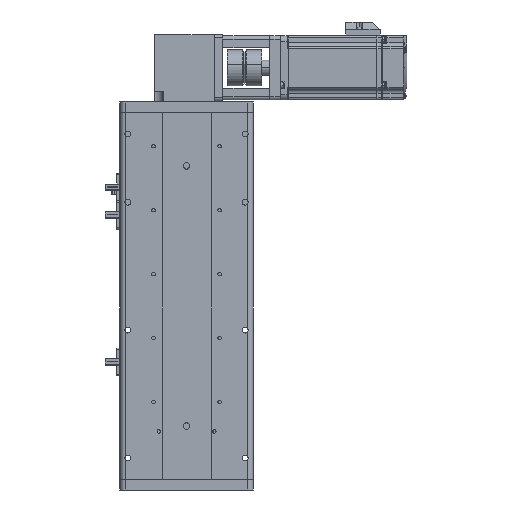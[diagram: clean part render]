
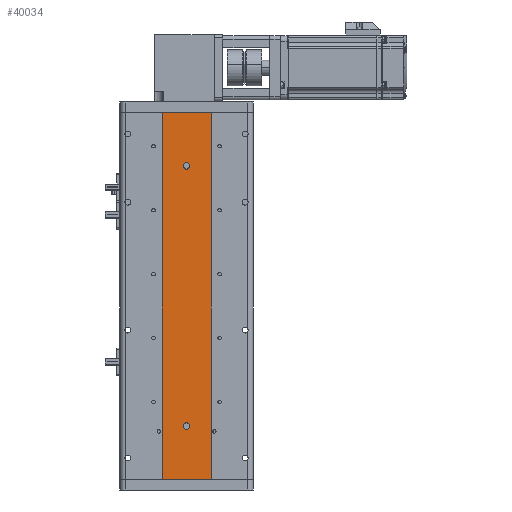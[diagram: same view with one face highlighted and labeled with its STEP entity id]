
A CAD part, front view. The second image highlights one B-rep face of the part: STEP entity #40034.
In plain terms, the highlighted planar face has unit normal (0, -1, 0).
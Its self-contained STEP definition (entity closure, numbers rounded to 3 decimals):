
#705 = DIRECTION ( 'NONE',  ( 0., 0., 1. ) ) ;
#916 = DIRECTION ( 'NONE',  ( 1., 0., 0. ) ) ;
#2080 = DIRECTION ( 'NONE',  ( 1., 0., 0. ) ) ;
#2386 = AXIS2_PLACEMENT_3D ( 'NONE', #44419, #17637, #48931 ) ;
#2484 = VERTEX_POINT ( 'NONE', #52739 ) ;
#4044 = DIRECTION ( 'NONE',  ( 0., 1., 0. ) ) ;
#4589 = ORIENTED_EDGE ( 'NONE', *, *, #50188, .F. ) ;
#5511 = AXIS2_PLACEMENT_3D ( 'NONE', #32325, #5598, #36836 ) ;
#5598 = DIRECTION ( 'NONE',  ( 0., -1., 0. ) ) ;
#6103 = CARTESIAN_POINT ( 'NONE',  ( 0., 1., -125. ) ) ;
#7174 = CARTESIAN_POINT ( 'NONE',  ( 23., 1., 172.001 ) ) ;
#8014 = EDGE_CURVE ( 'NONE', #13140, #49374, #9955, .T. ) ;
#8070 = ORIENTED_EDGE ( 'NONE', *, *, #54855, .F. ) ;
#8545 = VERTEX_POINT ( 'NONE', #43619 ) ;
#9912 = CARTESIAN_POINT ( 'NONE',  ( 23., 1., -172. ) ) ;
#9955 = LINE ( 'NONE', #44210, #56025 ) ;
#10568 = VERTEX_POINT ( 'NONE', #6103 ) ;
#12844 = CARTESIAN_POINT ( 'NONE',  ( 0., 1., 122. ) ) ;
#13140 = VERTEX_POINT ( 'NONE', #17910 ) ;
#13797 = EDGE_LOOP ( 'NONE', ( #4589, #8070 ) ) ;
#14484 = VERTEX_POINT ( 'NONE', #45221 ) ;
#15544 = DIRECTION ( 'NONE',  ( 0., 0., -1. ) ) ;
#16064 = LINE ( 'NONE', #55566, #38423 ) ;
#16149 = FACE_OUTER_BOUND ( 'NONE', #49809, .T. ) ;
#16894 = ORIENTED_EDGE ( 'NONE', *, *, #31182, .F. ) ;
#17292 = DIRECTION ( 'NONE',  ( 0., 0., -1. ) ) ;
#17447 = DIRECTION ( 'NONE',  ( 0., 0., -1. ) ) ;
#17637 = DIRECTION ( 'NONE',  ( 0., -1., 0. ) ) ;
#17910 = CARTESIAN_POINT ( 'NONE',  ( -23., 1., 172. ) ) ;
#18072 = VECTOR ( 'NONE', #15544, 1000. ) ;
#18390 = LINE ( 'NONE', #9912, #52671 ) ;
#22171 = CARTESIAN_POINT ( 'NONE',  ( 23., 1., 172.001 ) ) ;
#23677 = DIRECTION ( 'NONE',  ( 0., -1., 0. ) ) ;
#24296 = ORIENTED_EDGE ( 'NONE', *, *, #40373, .F. ) ;
#24493 = EDGE_CURVE ( 'NONE', #55715, #52614, #52355, .T. ) ;
#27426 = PLANE ( 'NONE',  #48333 ) ;
#27885 = CIRCLE ( 'NONE', #51618, 3. ) ;
#27973 = FACE_BOUND ( 'NONE', #49133, .T. ) ;
#28389 = AXIS2_PLACEMENT_3D ( 'NONE', #50463, #23677, #54923 ) ;
#31182 = EDGE_CURVE ( 'NONE', #2484, #8545, #27885, .T. ) ;
#31310 = ORIENTED_EDGE ( 'NONE', *, *, #51504, .F. ) ;
#32325 = CARTESIAN_POINT ( 'NONE',  ( 0., 1., -122. ) ) ;
#34532 = ORIENTED_EDGE ( 'NONE', *, *, #24493, .F. ) ;
#36836 = DIRECTION ( 'NONE',  ( 0., 0., -1. ) ) ;
#38423 = VECTOR ( 'NONE', #2080, 1000. ) ;
#38513 = FACE_BOUND ( 'NONE', #13797, .T. ) ;
#40034 = ADVANCED_FACE ( 'NONE', ( #27973, #38513, #16149 ), #27426, .F. ) ;
#40063 = CIRCLE ( 'NONE', #28389, 3. ) ;
#40225 = CARTESIAN_POINT ( 'NONE',  ( -23., 1., -172. ) ) ;
#40373 = EDGE_CURVE ( 'NONE', #8545, #2484, #53761, .T. ) ;
#41489 = ORIENTED_EDGE ( 'NONE', *, *, #49496, .T. ) ;
#42191 = CIRCLE ( 'NONE', #5511, 3. ) ;
#43619 = CARTESIAN_POINT ( 'NONE',  ( 0., 1., 119. ) ) ;
#44068 = DIRECTION ( 'NONE',  ( 0., -1., 0. ) ) ;
#44210 = CARTESIAN_POINT ( 'NONE',  ( -23., 1., 172.001 ) ) ;
#44419 = CARTESIAN_POINT ( 'NONE',  ( 0., 1., 122. ) ) ;
#45221 = CARTESIAN_POINT ( 'NONE',  ( 0., 1., -119. ) ) ;
#48333 = AXIS2_PLACEMENT_3D ( 'NONE', #22171, #4044, #705 ) ;
#48931 = DIRECTION ( 'NONE',  ( 0., 0., -1. ) ) ;
#49133 = EDGE_LOOP ( 'NONE', ( #24296, #16894 ) ) ;
#49374 = VERTEX_POINT ( 'NONE', #40225 ) ;
#49496 = EDGE_CURVE ( 'NONE', #49374, #52614, #18390, .T. ) ;
#49809 = EDGE_LOOP ( 'NONE', ( #56380, #41489, #34532, #31310 ) ) ;
#50188 = EDGE_CURVE ( 'NONE', #10568, #14484, #40063, .T. ) ;
#50463 = CARTESIAN_POINT ( 'NONE',  ( 0., 1., -122. ) ) ;
#51504 = EDGE_CURVE ( 'NONE', #13140, #55715, #16064, .T. ) ;
#51618 = AXIS2_PLACEMENT_3D ( 'NONE', #12844, #44068, #17292 ) ;
#51795 = CARTESIAN_POINT ( 'NONE',  ( 23., 1., -172. ) ) ;
#51987 = CARTESIAN_POINT ( 'NONE',  ( 23., 1., 172. ) ) ;
#52355 = LINE ( 'NONE', #7174, #18072 ) ;
#52614 = VERTEX_POINT ( 'NONE', #51795 ) ;
#52671 = VECTOR ( 'NONE', #916, 1000. ) ;
#52739 = CARTESIAN_POINT ( 'NONE',  ( 0., 1., 125. ) ) ;
#53761 = CIRCLE ( 'NONE', #2386, 3. ) ;
#54855 = EDGE_CURVE ( 'NONE', #14484, #10568, #42191, .T. ) ;
#54923 = DIRECTION ( 'NONE',  ( 0., 0., -1. ) ) ;
#55566 = CARTESIAN_POINT ( 'NONE',  ( 23., 1., 172. ) ) ;
#55715 = VERTEX_POINT ( 'NONE', #51987 ) ;
#56025 = VECTOR ( 'NONE', #17447, 1000. ) ;
#56380 = ORIENTED_EDGE ( 'NONE', *, *, #8014, .T. ) ;
